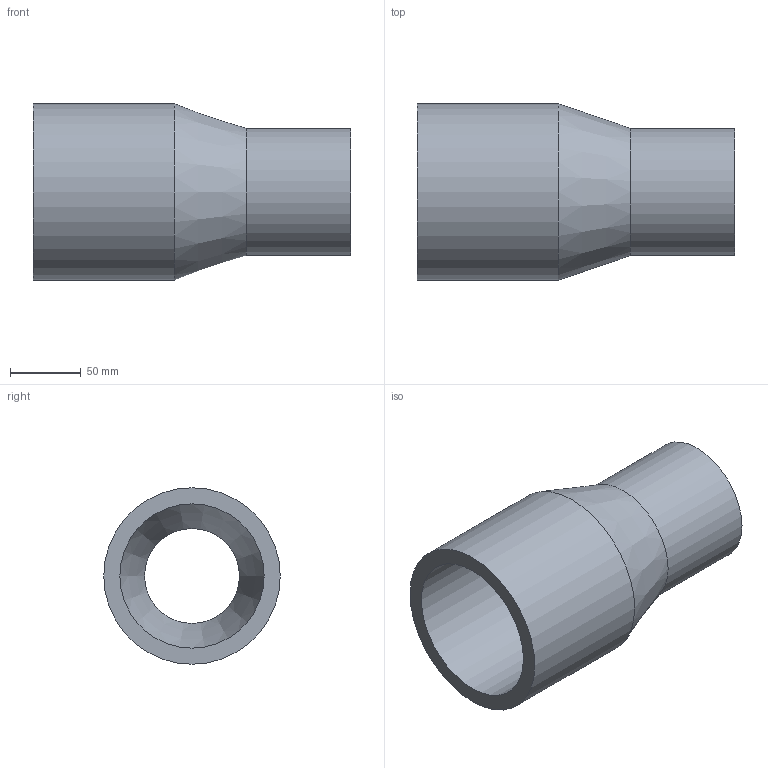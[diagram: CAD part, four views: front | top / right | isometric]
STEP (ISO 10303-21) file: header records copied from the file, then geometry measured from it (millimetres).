
FILE_DESCRIPTION(('Beschreibung'),'1');
FILE_NAME('V:/Ziel/25.91.03.103_SDR_11_PE100_125_090.STP', '2014-09-15T05:58:18',('Author'), ('Organization'), 'KCM Version 1.1.794.0', 'Kubotek KeyCreator', 'Authorization');
FILE_SCHEMA(('CONFIG_CONTROL_DESIGN'));
Length unit declared in the file: millimetre
Bounding box: 225 x 125 x 125 mm (x, y, z)
Volume: 799541.5 mm3; surface area: 147153.9 mm2
Topology: 1 solids, 1 shells, 8 faces, 22 edges, 24 vertices
Faces by surface type: cylinder 4, cone 2, plane 2
Full cylindrical faces by diameter (mm): 67.2 x1, 90 x1, 102.2 x1, 125 x1
Entity records: 321 total; most frequent: DIRECTION 48, CARTESIAN_POINT 39, ORIENTED_EDGE 28, AXIS2_PLACEMENT_3D 17, EDGE_CURVE 14, VECTOR 14, LINE 14, EDGE_LOOP 10
